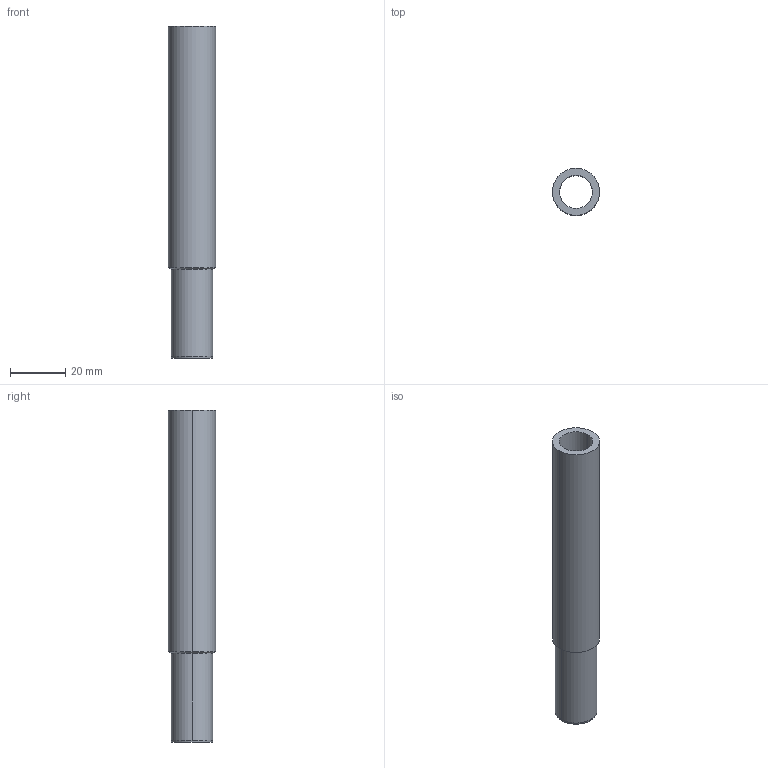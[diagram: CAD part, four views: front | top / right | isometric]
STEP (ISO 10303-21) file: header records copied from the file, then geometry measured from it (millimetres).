
FILE_DESCRIPTION(('OneSpaceDesigner STEP Export'),'2;1');
FILE_NAME('C1432 17x15.stp','2010-06-15T16:27:33',(''),(''),'OneSpace Designer STEP processor for AP214 (Solid Model)','OneSpace Modeling 15.00A 14-Mar-2007 (C) CoCreate Software GmbH','');
FILE_SCHEMA(('AUTOMOTIVE_DESIGN { 1 0 10303 214 1 1 1 1 }'));
Length unit declared in the file: millimetre
Products named in the file (2): C1432_17x15
Assembly tree (1 placements, depth 2):
  C1432_17x15
    C1432_17x15
Bounding box: 17 x 17 x 120 mm (x, y, z)
Volume: 12041.3 mm3; surface area: 10931.9 mm2
Topology: 1 solids, 1 shells, 12 faces, 24 edges, 14 vertices
Faces by surface type: cylinder 6, cone 4, plane 2
Entity records: 303 total; most frequent: ORIENTED_EDGE 48, DIRECTION 42, CARTESIAN_POINT 40, EDGE_CURVE 24, AXIS2_PLACEMENT_3D 16, VERTEX_POINT 14, EDGE_LOOP 14, FACE_OUTER_BOUND 12
